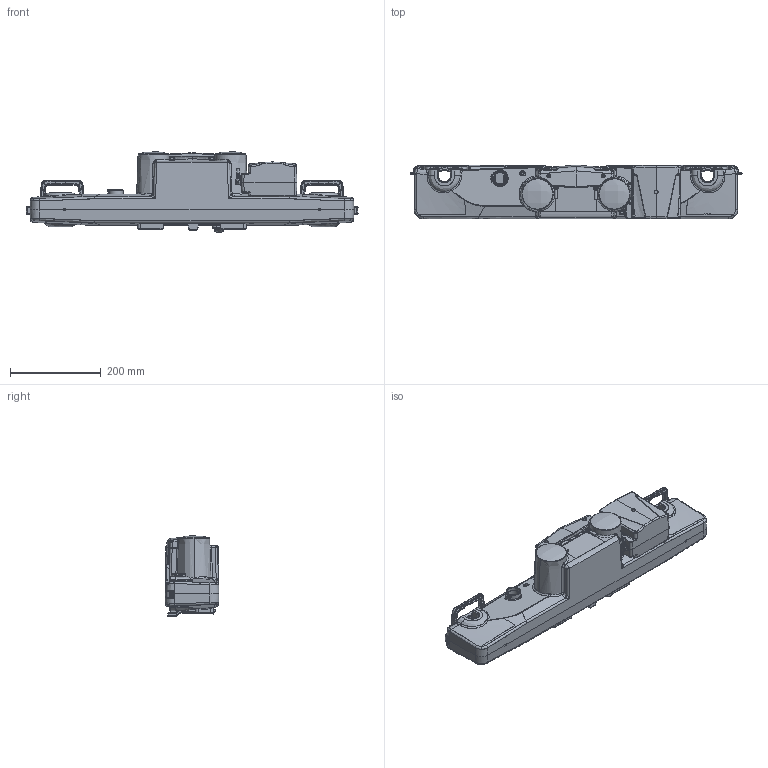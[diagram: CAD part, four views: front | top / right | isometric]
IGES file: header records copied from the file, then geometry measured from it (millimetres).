
Start section: SolidWorks IGES file using analytic representation for surfaces
Bounding box: 733.25 x 119.24 x 178.04 mm (x, y, z)
Surface area: 464300.3 mm2 (no closed solid volume)
Topology: 0 solids, 0 shells, 2138 faces, 25282 edges, 25249 vertices
Faces by surface type: bspline 1436, revolution 702
